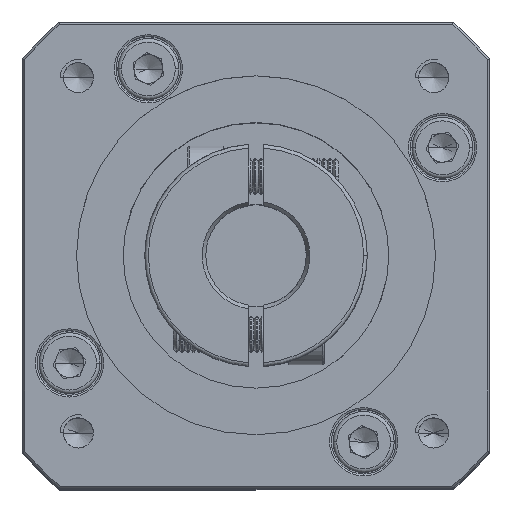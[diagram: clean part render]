
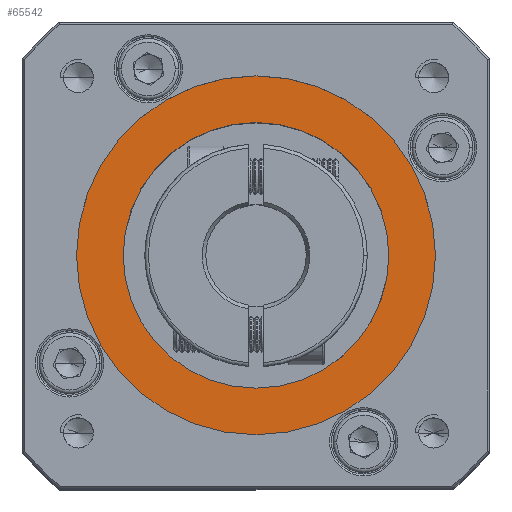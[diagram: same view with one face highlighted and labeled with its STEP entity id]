
A CAD part, top view. The second image highlights one B-rep face of the part: STEP entity #65542.
In plain terms, the highlighted planar face has unit normal (0, 0, 1).
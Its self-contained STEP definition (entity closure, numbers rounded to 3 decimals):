
#58 = DIRECTION ( 'NONE',  ( 0., 0., 1. ) ) ;
#5508 = EDGE_CURVE ( 'NONE', #24032, #75327, #73721, .T. ) ;
#11213 = AXIS2_PLACEMENT_3D ( 'NONE', #107894, #89630, #107525 ) ;
#13605 = DIRECTION ( 'NONE',  ( 0., 0., -1. ) ) ;
#14185 = CIRCLE ( 'NONE', #84325, 25. ) ;
#14947 = DIRECTION ( 'NONE',  ( 1., 0., 0. ) ) ;
#18704 = AXIS2_PLACEMENT_3D ( 'NONE', #19885, #58, #65453 ) ;
#19885 = CARTESIAN_POINT ( 'NONE',  ( -40.761, 29.91, 0.906 ) ) ;
#24032 = VERTEX_POINT ( 'NONE', #77775 ) ;
#24172 = CARTESIAN_POINT ( 'NONE',  ( -40.761, 29.91, 0.906 ) ) ;
#25218 = ORIENTED_EDGE ( 'NONE', *, *, #93117, .T. ) ;
#32405 = EDGE_LOOP ( 'NONE', ( #25218, #69300 ) ) ;
#33217 = ORIENTED_EDGE ( 'NONE', *, *, #5508, .T. ) ;
#38588 = FACE_BOUND ( 'NONE', #32405, .T. ) ;
#40682 = EDGE_CURVE ( 'NONE', #105467, #93694, #77399, .T. ) ;
#43809 = AXIS2_PLACEMENT_3D ( 'NONE', #69864, #70254, #14947 ) ;
#46606 = CARTESIAN_POINT ( 'NONE',  ( -22.261, 29.91, 0.906 ) ) ;
#51686 = CIRCLE ( 'NONE', #11213, 18.5 ) ;
#55630 = PLANE ( 'NONE',  #18704 ) ;
#65453 = DIRECTION ( 'NONE',  ( 1., 0., 0. ) ) ;
#65542 = ADVANCED_FACE ( 'NONE', ( #108366, #38588 ), #55630, .T. ) ;
#69300 = ORIENTED_EDGE ( 'NONE', *, *, #40682, .T. ) ;
#69864 = CARTESIAN_POINT ( 'NONE',  ( -40.761, 29.91, 0.906 ) ) ;
#70254 = DIRECTION ( 'NONE',  ( 0., 0., 1. ) ) ;
#73721 = CIRCLE ( 'NONE', #43809, 25. ) ;
#75327 = VERTEX_POINT ( 'NONE', #97893 ) ;
#77399 = CIRCLE ( 'NONE', #99347, 18.5 ) ;
#77775 = CARTESIAN_POINT ( 'NONE',  ( -65.761, 29.91, 0.906 ) ) ;
#79597 = DIRECTION ( 'NONE',  ( 0., 0., 1. ) ) ;
#80556 = EDGE_LOOP ( 'NONE', ( #106286, #33217 ) ) ;
#84325 = AXIS2_PLACEMENT_3D ( 'NONE', #88122, #79597, #106793 ) ;
#88122 = CARTESIAN_POINT ( 'NONE',  ( -40.761, 29.91, 0.906 ) ) ;
#89115 = DIRECTION ( 'NONE',  ( 1., 0., 0. ) ) ;
#89630 = DIRECTION ( 'NONE',  ( 0., 0., -1. ) ) ;
#93117 = EDGE_CURVE ( 'NONE', #93694, #105467, #51686, .T. ) ;
#93694 = VERTEX_POINT ( 'NONE', #46606 ) ;
#97893 = CARTESIAN_POINT ( 'NONE',  ( -15.761, 29.91, 0.906 ) ) ;
#99347 = AXIS2_PLACEMENT_3D ( 'NONE', #24172, #13605, #89115 ) ;
#99639 = CARTESIAN_POINT ( 'NONE',  ( -59.261, 29.91, 0.906 ) ) ;
#105467 = VERTEX_POINT ( 'NONE', #99639 ) ;
#106286 = ORIENTED_EDGE ( 'NONE', *, *, #107438, .T. ) ;
#106793 = DIRECTION ( 'NONE',  ( 1., 0., 0. ) ) ;
#107438 = EDGE_CURVE ( 'NONE', #75327, #24032, #14185, .T. ) ;
#107525 = DIRECTION ( 'NONE',  ( 1., 0., 0. ) ) ;
#107894 = CARTESIAN_POINT ( 'NONE',  ( -40.761, 29.91, 0.906 ) ) ;
#108366 = FACE_OUTER_BOUND ( 'NONE', #80556, .T. ) ;
